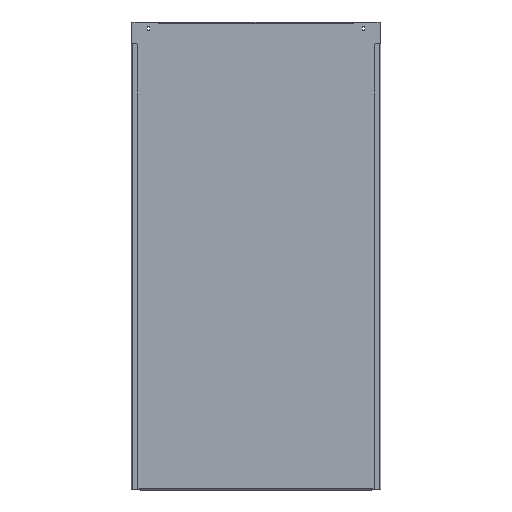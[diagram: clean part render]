
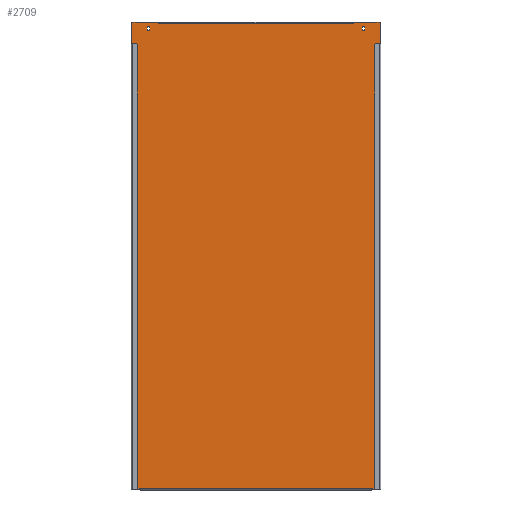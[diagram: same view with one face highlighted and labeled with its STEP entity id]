
A CAD part, front view. The second image highlights one B-rep face of the part: STEP entity #2709.
In plain terms, the highlighted planar face has unit normal (0, -1, 0).
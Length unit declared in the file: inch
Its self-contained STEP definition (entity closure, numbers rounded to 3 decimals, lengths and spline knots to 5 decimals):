
#333=DIRECTION('',(0.,0.,-1.));
#334=VECTOR('',#333,63.385);
#335=CARTESIAN_POINT('',(-17.5425,-0.104,-2.948));
#336=LINE('',#335,#334);
#355=CARTESIAN_POINT('',(-15.2559,-0.104,-0.6905));
#356=DIRECTION('',(0.,1.,0.));
#357=DIRECTION('',(-1.,0.,0.));
#358=AXIS2_PLACEMENT_3D('',#355,#356,#357);
#363=DIRECTION('',(0.,0.,-1.));
#364=VECTOR('',#363,0.281);
#365=CARTESIAN_POINT('',(-15.4279,-0.104,-0.6905));
#366=LINE('',#365,#364);
#370=CARTESIAN_POINT('',(-15.2559,-0.104,-0.9715));
#371=DIRECTION('',(0.,1.,0.));
#372=DIRECTION('',(1.,0.,0.));
#373=AXIS2_PLACEMENT_3D('',#370,#371,#372);
#378=DIRECTION('',(0.,0.,1.));
#379=VECTOR('',#378,0.281);
#380=CARTESIAN_POINT('',(-15.0839,-0.104,-0.9715));
#381=LINE('',#380,#379);
#385=DIRECTION('',(0.,0.,-1.));
#386=VECTOR('',#385,0.281);
#387=CARTESIAN_POINT('',(15.0839,-0.104,-0.6905));
#388=LINE('',#387,#386);
#392=CARTESIAN_POINT('',(15.2559,-0.104,-0.9715));
#393=DIRECTION('',(0.,1.,0.));
#394=DIRECTION('',(1.,0.,0.));
#395=AXIS2_PLACEMENT_3D('',#392,#393,#394);
#400=DIRECTION('',(0.,0.,1.));
#401=VECTOR('',#400,0.281);
#402=CARTESIAN_POINT('',(15.4279,-0.104,-0.9715));
#403=LINE('',#402,#401);
#407=CARTESIAN_POINT('',(15.2559,-0.104,-0.6905));
#408=DIRECTION('',(0.,1.,0.));
#409=DIRECTION('',(-1.,0.,0.));
#410=AXIS2_PLACEMENT_3D('',#407,#408,#409);
#415=CARTESIAN_POINT('',(17.4665,-0.104,-0.25));
#416=DIRECTION('',(0.,-1.,0.));
#417=DIRECTION('',(1.,0.,0.));
#418=AXIS2_PLACEMENT_3D('',#415,#416,#417);
#423=DIRECTION('',(0.,0.,-1.));
#424=VECTOR('',#423,2.698);
#425=CARTESIAN_POINT('',(17.7165,-0.104,-0.25));
#426=LINE('',#425,#424);
#430=DIRECTION('',(-1.,0.,0.));
#431=VECTOR('',#430,0.174);
#432=CARTESIAN_POINT('',(17.7165,-0.104,-2.948));
#433=LINE('',#432,#431);
#437=DIRECTION('',(-0.174,0.,0.985));
#438=VECTOR('',#437,0.12388);
#439=CARTESIAN_POINT('',(16.50361,-0.104,-66.333));
#440=LINE('',#439,#438);
#444=DIRECTION('',(1.,0.,0.));
#445=VECTOR('',#444,0.0156);
#446=CARTESIAN_POINT('',(16.4665,-0.104,-66.211));
#447=LINE('',#446,#445);
#451=DIRECTION('',(-1.,0.,0.));
#452=VECTOR('',#451,0.0156);
#453=CARTESIAN_POINT('',(-16.4665,-0.104,-66.211));
#454=LINE('',#453,#452);
#458=DIRECTION('',(0.174,0.,0.985));
#459=VECTOR('',#458,0.12388);
#460=CARTESIAN_POINT('',(-16.50361,-0.104,-66.333));
#461=LINE('',#460,#459);
#465=DIRECTION('',(-1.,0.,0.));
#466=VECTOR('',#465,0.174);
#467=CARTESIAN_POINT('',(-17.5425,-0.104,-2.948));
#468=LINE('',#467,#466);
#472=DIRECTION('',(0.,0.,1.));
#473=VECTOR('',#472,2.698);
#474=CARTESIAN_POINT('',(-17.7165,-0.104,-2.948));
#475=LINE('',#474,#473);
#479=CARTESIAN_POINT('',(-17.4665,-0.104,-0.25));
#480=DIRECTION('',(0.,-1.,0.));
#481=DIRECTION('',(0.,0.,1.));
#482=AXIS2_PLACEMENT_3D('',#479,#480,#481);
#487=DIRECTION('',(0.174,0.,-0.985));
#488=VECTOR('',#487,0.12388);
#489=CARTESIAN_POINT('',(-13.79251,-0.104,0.));
#490=LINE('',#489,#488);
#494=DIRECTION('',(-1.,0.,0.));
#495=VECTOR('',#494,0.0156);
#496=CARTESIAN_POINT('',(-13.7554,-0.104,-0.122));
#497=LINE('',#496,#495);
#501=DIRECTION('',(1.,0.,0.));
#502=VECTOR('',#501,0.0156);
#503=CARTESIAN_POINT('',(13.7554,-0.104,-0.122));
#504=LINE('',#503,#502);
#508=DIRECTION('',(-0.174,0.,-0.985));
#509=VECTOR('',#508,0.12388);
#510=CARTESIAN_POINT('',(13.79251,-0.104,0.));
#511=LINE('',#510,#509);
#745=DIRECTION('',(-1.,0.,0.));
#746=VECTOR('',#745,3.67399);
#747=CARTESIAN_POINT('',(17.4665,-0.104,0.));
#748=LINE('',#747,#746);
#780=DIRECTION('',(-1.,0.,0.));
#781=VECTOR('',#780,3.67399);
#782=CARTESIAN_POINT('',(-13.79251,-0.104,0.));
#783=LINE('',#782,#781);
#856=DIRECTION('',(-1.,0.,0.));
#857=VECTOR('',#856,27.5108);
#858=CARTESIAN_POINT('',(13.7554,-0.104,-0.122));
#859=LINE('',#858,#857);
#1148=DIRECTION('',(-1.,0.,0.));
#1149=VECTOR('',#1148,1.03889);
#1150=CARTESIAN_POINT('',(-16.50361,-0.104,-66.333));
#1151=LINE('',#1150,#1149);
#1162=DIRECTION('',(-1.,0.,0.));
#1163=VECTOR('',#1162,1.03889);
#1164=CARTESIAN_POINT('',(17.5425,-0.104,-66.333));
#1165=LINE('',#1164,#1163);
#1230=DIRECTION('',(-1.,0.,0.));
#1231=VECTOR('',#1230,32.933);
#1232=CARTESIAN_POINT('',(16.4665,-0.104,-66.211));
#1233=LINE('',#1232,#1231);
#1721=DIRECTION('',(0.,0.,-1.));
#1722=VECTOR('',#1721,63.385);
#1723=CARTESIAN_POINT('',(17.5425,-0.104,-2.948));
#1724=LINE('',#1723,#1722);
#2008=CARTESIAN_POINT('',(-17.5425,-0.104,-66.333));
#2010=VERTEX_POINT('',#2008);
#2011=CARTESIAN_POINT('',(17.5425,-0.104,-66.333));
#2013=VERTEX_POINT('',#2011);
#2053=CARTESIAN_POINT('',(-13.7554,-0.104,-0.122));
#2054=CARTESIAN_POINT('',(-13.771,-0.104,-0.122));
#2055=VERTEX_POINT('',#2053);
#2056=VERTEX_POINT('',#2054);
#2057=CARTESIAN_POINT('',(-13.79251,-0.104,0.));
#2058=VERTEX_POINT('',#2057);
#2065=CARTESIAN_POINT('',(13.7554,-0.104,-0.122));
#2066=CARTESIAN_POINT('',(13.771,-0.104,-0.122));
#2067=VERTEX_POINT('',#2065);
#2068=VERTEX_POINT('',#2066);
#2069=CARTESIAN_POINT('',(13.79251,-0.104,0.));
#2070=VERTEX_POINT('',#2069);
#2093=CARTESIAN_POINT('',(-16.4665,-0.104,-66.211));
#2094=CARTESIAN_POINT('',(-16.4821,-0.104,-66.211));
#2095=VERTEX_POINT('',#2093);
#2096=VERTEX_POINT('',#2094);
#2097=CARTESIAN_POINT('',(-16.50361,-0.104,-66.333));
#2098=VERTEX_POINT('',#2097);
#2105=CARTESIAN_POINT('',(16.4665,-0.104,-66.211));
#2106=CARTESIAN_POINT('',(16.4821,-0.104,-66.211));
#2107=VERTEX_POINT('',#2105);
#2108=VERTEX_POINT('',#2106);
#2109=CARTESIAN_POINT('',(16.50361,-0.104,-66.333));
#2110=VERTEX_POINT('',#2109);
#2207=CARTESIAN_POINT('',(15.0839,-0.104,-0.6905));
#2208=CARTESIAN_POINT('',(15.0839,-0.104,-0.9715));
#2209=VERTEX_POINT('',#2207);
#2210=VERTEX_POINT('',#2208);
#2211=CARTESIAN_POINT('',(15.4279,-0.104,-0.9715));
#2212=VERTEX_POINT('',#2211);
#2213=CARTESIAN_POINT('',(15.4279,-0.104,-0.6905));
#2214=VERTEX_POINT('',#2213);
#2215=CARTESIAN_POINT('',(-15.4279,-0.104,-0.6905));
#2216=CARTESIAN_POINT('',(-15.0839,-0.104,-0.6905));
#2217=VERTEX_POINT('',#2215);
#2218=VERTEX_POINT('',#2216);
#2219=CARTESIAN_POINT('',(-15.4279,-0.104,-0.9715));
#2220=VERTEX_POINT('',#2219);
#2221=CARTESIAN_POINT('',(-15.0839,-0.104,-0.9715));
#2222=VERTEX_POINT('',#2221);
#2279=CARTESIAN_POINT('',(-17.5425,-0.104,-2.948));
#2280=VERTEX_POINT('',#2279);
#2281=CARTESIAN_POINT('',(17.5425,-0.104,-2.948));
#2282=VERTEX_POINT('',#2281);
#2287=CARTESIAN_POINT('',(-17.7165,-0.104,-2.948));
#2288=VERTEX_POINT('',#2287);
#2291=CARTESIAN_POINT('',(17.7165,-0.104,-2.948));
#2292=VERTEX_POINT('',#2291);
#2303=CARTESIAN_POINT('',(17.7165,-0.104,-0.25));
#2304=CARTESIAN_POINT('',(17.4665,-0.104,0.));
#2305=VERTEX_POINT('',#2303);
#2306=VERTEX_POINT('',#2304);
#2311=CARTESIAN_POINT('',(-17.4665,-0.104,0.));
#2312=CARTESIAN_POINT('',(-17.7165,-0.104,-0.25));
#2313=VERTEX_POINT('',#2311);
#2314=VERTEX_POINT('',#2312);
#2639=CARTESIAN_POINT('',(17.7165,-0.104,0.));
#2640=DIRECTION('',(0.,1.,0.));
#2641=DIRECTION('',(-1.,0.,0.));
#2642=AXIS2_PLACEMENT_3D('',#2639,#2640,#2641);
#2643=PLANE('',#2642);
#2645=ORIENTED_EDGE('',*,*,#2644,.F.);
#2647=ORIENTED_EDGE('',*,*,#2646,.T.);
#2649=ORIENTED_EDGE('',*,*,#2648,.T.);
#2651=ORIENTED_EDGE('',*,*,#2650,.T.);
#2653=ORIENTED_EDGE('',*,*,#2652,.T.);
#2655=ORIENTED_EDGE('',*,*,#2654,.T.);
#2657=ORIENTED_EDGE('',*,*,#2656,.F.);
#2659=ORIENTED_EDGE('',*,*,#2658,.T.);
#2661=ORIENTED_EDGE('',*,*,#2660,.T.);
#2663=ORIENTED_EDGE('',*,*,#2662,.F.);
#2665=ORIENTED_EDGE('',*,*,#2664,.T.);
#2666=ORIENTED_EDGE('',*,*,#2632,.F.);
#2668=ORIENTED_EDGE('',*,*,#2667,.T.);
#2670=ORIENTED_EDGE('',*,*,#2669,.T.);
#2672=ORIENTED_EDGE('',*,*,#2671,.F.);
#2674=ORIENTED_EDGE('',*,*,#2673,.F.);
#2676=ORIENTED_EDGE('',*,*,#2675,.T.);
#2678=ORIENTED_EDGE('',*,*,#2677,.F.);
#2680=ORIENTED_EDGE('',*,*,#2679,.F.);
#2682=ORIENTED_EDGE('',*,*,#2681,.T.);
#2684=ORIENTED_EDGE('',*,*,#2683,.F.);
#2686=ORIENTED_EDGE('',*,*,#2685,.F.);
#2687=EDGE_LOOP('',(#2645,#2647,#2649,#2651,#2653,#2655,#2657,#2659,#2661,#2663,
#2665,#2666,#2668,#2670,#2672,#2674,#2676,#2678,#2680,#2682,#2684,#2686));
#2688=FACE_OUTER_BOUND('',#2687,.F.);
#2690=ORIENTED_EDGE('',*,*,#2689,.T.);
#2692=ORIENTED_EDGE('',*,*,#2691,.F.);
#2694=ORIENTED_EDGE('',*,*,#2693,.T.);
#2696=ORIENTED_EDGE('',*,*,#2695,.F.);
#2697=EDGE_LOOP('',(#2690,#2692,#2694,#2696));
#2698=FACE_BOUND('',#2697,.F.);
#2700=ORIENTED_EDGE('',*,*,#2699,.F.);
#2702=ORIENTED_EDGE('',*,*,#2701,.T.);
#2704=ORIENTED_EDGE('',*,*,#2703,.F.);
#2706=ORIENTED_EDGE('',*,*,#2705,.T.);
#2707=EDGE_LOOP('',(#2700,#2702,#2704,#2706));
#2708=FACE_BOUND('',#2707,.F.);
#359=CIRCLE('',#358,0.172);
#374=CIRCLE('',#373,0.172);
#396=CIRCLE('',#395,0.172);
#411=CIRCLE('',#410,0.172);
#419=CIRCLE('',#418,0.25);
#483=CIRCLE('',#482,0.25);
#2632=EDGE_CURVE('',#2280,#2010,#336,.T.);
#2644=EDGE_CURVE('',#2305,#2306,#419,.T.);
#2646=EDGE_CURVE('',#2305,#2292,#426,.T.);
#2648=EDGE_CURVE('',#2292,#2282,#433,.T.);
#2650=EDGE_CURVE('',#2282,#2013,#1724,.T.);
#2652=EDGE_CURVE('',#2013,#2110,#1165,.T.);
#2654=EDGE_CURVE('',#2110,#2108,#440,.T.);
#2656=EDGE_CURVE('',#2107,#2108,#447,.T.);
#2658=EDGE_CURVE('',#2107,#2095,#1233,.T.);
#2660=EDGE_CURVE('',#2095,#2096,#454,.T.);
#2662=EDGE_CURVE('',#2098,#2096,#461,.T.);
#2664=EDGE_CURVE('',#2098,#2010,#1151,.T.);
#2667=EDGE_CURVE('',#2280,#2288,#468,.T.);
#2669=EDGE_CURVE('',#2288,#2314,#475,.T.);
#2671=EDGE_CURVE('',#2313,#2314,#483,.T.);
#2673=EDGE_CURVE('',#2058,#2313,#783,.T.);
#2675=EDGE_CURVE('',#2058,#2056,#490,.T.);
#2677=EDGE_CURVE('',#2055,#2056,#497,.T.);
#2679=EDGE_CURVE('',#2067,#2055,#859,.T.);
#2681=EDGE_CURVE('',#2067,#2068,#504,.T.);
#2683=EDGE_CURVE('',#2070,#2068,#511,.T.);
#2685=EDGE_CURVE('',#2306,#2070,#748,.T.);
#2689=EDGE_CURVE('',#2209,#2210,#388,.T.);
#2691=EDGE_CURVE('',#2212,#2210,#396,.T.);
#2693=EDGE_CURVE('',#2212,#2214,#403,.T.);
#2695=EDGE_CURVE('',#2209,#2214,#411,.T.);
#2699=EDGE_CURVE('',#2217,#2218,#359,.T.);
#2701=EDGE_CURVE('',#2217,#2220,#366,.T.);
#2703=EDGE_CURVE('',#2222,#2220,#374,.T.);
#2705=EDGE_CURVE('',#2222,#2218,#381,.T.);
#2709=ADVANCED_FACE('',(#2688,#2698,#2708),#2643,.F.);
